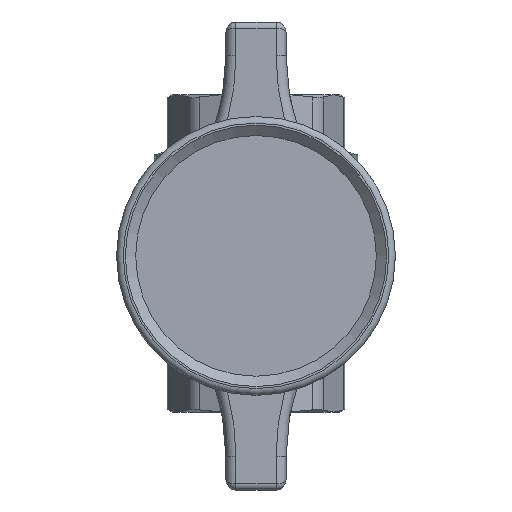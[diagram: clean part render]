
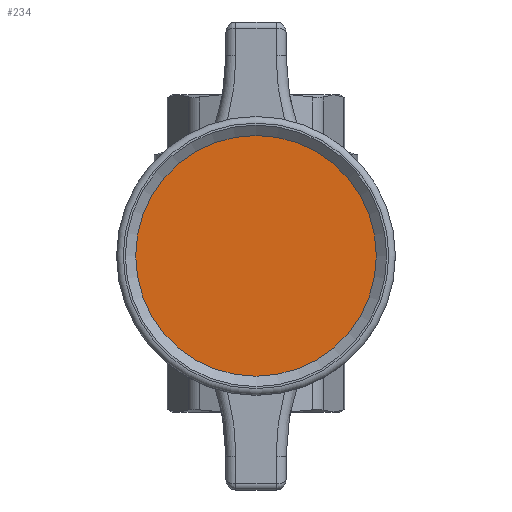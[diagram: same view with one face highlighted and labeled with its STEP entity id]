
A CAD part, top view. The second image highlights one B-rep face of the part: STEP entity #234.
In plain terms, the highlighted planar face has unit normal (0, 0, 1).
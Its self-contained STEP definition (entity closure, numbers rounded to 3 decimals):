
#234=ADVANCED_FACE('',(#4216),#4218,.T.);
#4216=FACE_BOUND('',#4217,.T.);
#4217=EDGE_LOOP('',(#10061));
#4218=PLANE('',#4219);
#4219=AXIS2_PLACEMENT_3D('',#4220,#4221,#4222);
#4220=CARTESIAN_POINT('',(0.,0.,81.9));
#4221=DIRECTION('',(0.,0.,1.));
#4222=DIRECTION('',(-1.,0.,0.));
#10061=ORIENTED_EDGE('',*,*,#14734,.T.);
#14734=EDGE_CURVE('',#17342,#17342,#17343,.T.);
#17342=VERTEX_POINT('',#24488);
#17343=CIRCLE('',#24489,18.);
#24488=CARTESIAN_POINT('',(-18.,0.,81.9));
#24489=AXIS2_PLACEMENT_3D('',#24490,#24491,#24492);
#24490=CARTESIAN_POINT('',(0.,0.,81.9));
#24491=DIRECTION('',(0.,0.,1.));
#24492=DIRECTION('',(-1.,0.,0.));
